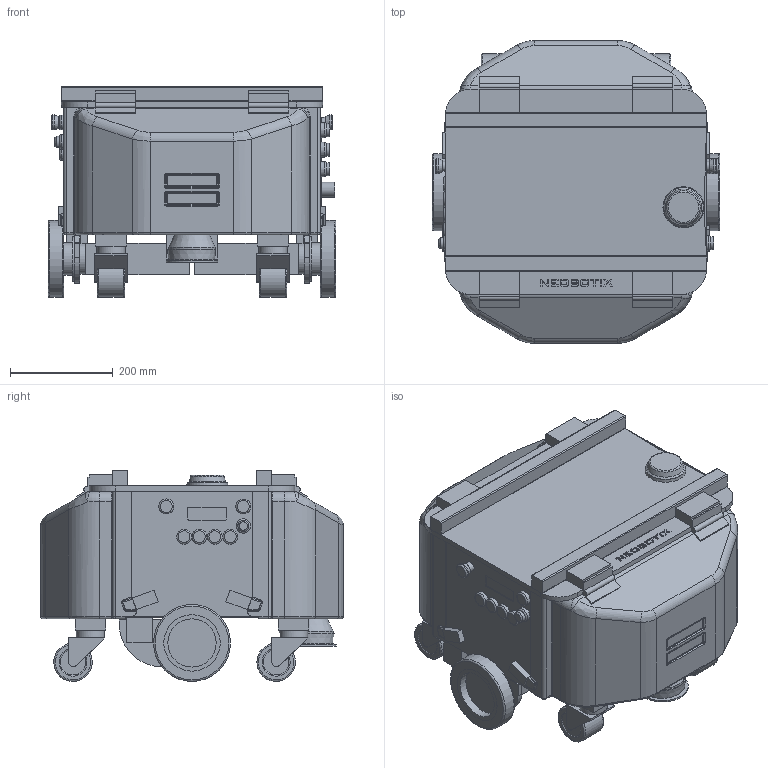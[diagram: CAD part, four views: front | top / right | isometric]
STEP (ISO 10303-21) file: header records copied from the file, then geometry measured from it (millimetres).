
FILE_DESCRIPTION(/* description */ (''),/* implementation_level */ '2;1');
FILE_NAME(/* name */ 'W:\DNC\CAD-Modelle\MP-400_V1-2_2020-10-23.stp',/* time_stamp */ '2020-10-23T08:23:15+02:00',/* author */ ('flv'),/* organization */ (''),/* preprocessor_version */ 'ST-DEVELOPER v16.5',/* originating_system */ 'Autodesk Inventor 2017',/* authorisation */ '');
FILE_SCHEMA (('AUTOMOTIVE_DESIGN { 1 0 10303 214 3 1 1 }'));
Length unit declared in the file: millimetre
Products named in the file (1): MP-400 V1.2 Simplified Complete
Bounding box: 560 x 590 x 411 mm (x, y, z)
Volume: 71653182.2 mm3; surface area: 1639691.3 mm2
Topology: 1 solids, 1 shells, 812 faces, 2054 edges, 1277 vertices
Faces by surface type: plane 438, cylinder 229, torus 70, bspline 52, sphere 12, cone 11
Full cylindrical faces by diameter (mm): 19.5 x2, 20 x4, 22 x1, 25.303 x3, 28 x1, 29 x7, 29.29 x2, 29.5 x3, 55 x4, 60 x2, 64 x2, 68 x1, 86 x2, 90.663 x1, 94 x4, 110 x4, 150 x2
Entity records: 26417 total; most frequent: CARTESIAN_POINT 6548, DIRECTION 3949, ORIENTED_EDGE 3904, EDGE_CURVE 1952, AXIS2_PLACEMENT_3D 1344, VERTEX_POINT 1273, LINE 1261, VECTOR 1261
